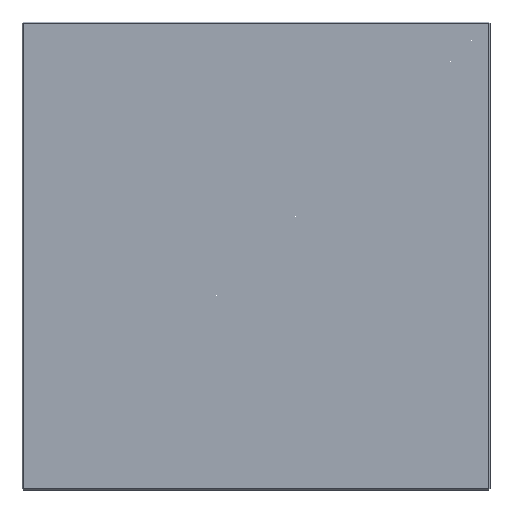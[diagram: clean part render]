
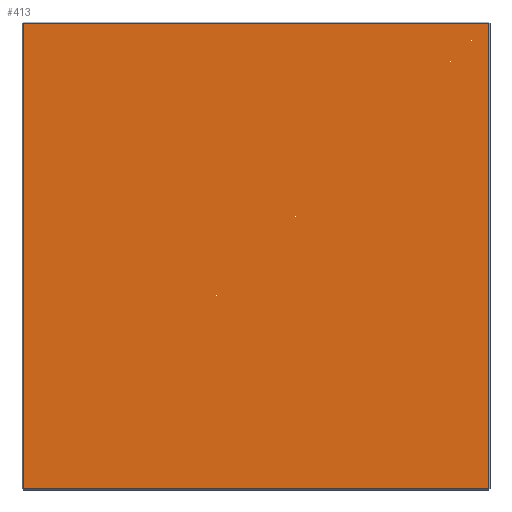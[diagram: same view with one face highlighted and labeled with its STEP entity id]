
A CAD part, front view. The second image highlights one B-rep face of the part: STEP entity #413.
In plain terms, the highlighted planar face has unit normal (0, -1, 0).
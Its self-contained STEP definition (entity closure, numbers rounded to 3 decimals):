
#5 = EDGE_CURVE ( 'NONE', #208, #531, #564, .T. ) ;
#31 = CARTESIAN_POINT ( 'NONE',  ( 222., 0., 222. ) ) ;
#55 = VERTEX_POINT ( 'NONE', #443 ) ;
#70 = EDGE_CURVE ( 'NONE', #229, #208, #214, .T. ) ;
#80 = ORIENTED_EDGE ( 'NONE', *, *, #123, .T. ) ;
#93 = CARTESIAN_POINT ( 'NONE',  ( 222., 0., -222. ) ) ;
#123 = EDGE_CURVE ( 'NONE', #55, #229, #458, .T. ) ;
#135 = CARTESIAN_POINT ( 'NONE',  ( 0., 0., -222. ) ) ;
#177 = CARTESIAN_POINT ( 'NONE',  ( -222., 0., 222. ) ) ;
#208 = VERTEX_POINT ( 'NONE', #31 ) ;
#214 = LINE ( 'NONE', #354, #592 ) ;
#225 = ORIENTED_EDGE ( 'NONE', *, *, #5, .T. ) ;
#229 = VERTEX_POINT ( 'NONE', #93 ) ;
#298 = DIRECTION ( 'NONE',  ( 0., 0., -1. ) ) ;
#305 = VECTOR ( 'NONE', #509, 1000. ) ;
#326 = ORIENTED_EDGE ( 'NONE', *, *, #369, .T. ) ;
#338 = CARTESIAN_POINT ( 'NONE',  ( -222., 0., 0. ) ) ;
#354 = CARTESIAN_POINT ( 'NONE',  ( 222., 0., 0. ) ) ;
#357 = CARTESIAN_POINT ( 'NONE',  ( 0., 0., 0. ) ) ;
#364 = CARTESIAN_POINT ( 'NONE',  ( 0., 0., 222. ) ) ;
#368 = DIRECTION ( 'NONE',  ( -1., 0., 0. ) ) ;
#369 = EDGE_CURVE ( 'NONE', #531, #55, #455, .T. ) ;
#381 = PLANE ( 'NONE',  #524 ) ;
#389 = DIRECTION ( 'NONE',  ( 0., 1., 0. ) ) ;
#392 = DIRECTION ( 'NONE',  ( 0., 0., 1. ) ) ;
#394 = ORIENTED_EDGE ( 'NONE', *, *, #70, .T. ) ;
#405 = DIRECTION ( 'NONE',  ( 0., 0., 1. ) ) ;
#413 = ADVANCED_FACE ( 'NONE', ( #437 ), #381, .F. ) ;
#430 = VECTOR ( 'NONE', #298, 1000. ) ;
#437 = FACE_OUTER_BOUND ( 'NONE', #555, .T. ) ;
#443 = CARTESIAN_POINT ( 'NONE',  ( -222., 0., -222. ) ) ;
#455 = LINE ( 'NONE', #338, #430 ) ;
#458 = LINE ( 'NONE', #135, #305 ) ;
#509 = DIRECTION ( 'NONE',  ( 1., 0., 0. ) ) ;
#519 = VECTOR ( 'NONE', #368, 1000. ) ;
#524 = AXIS2_PLACEMENT_3D ( 'NONE', #357, #389, #392 ) ;
#531 = VERTEX_POINT ( 'NONE', #177 ) ;
#555 = EDGE_LOOP ( 'NONE', ( #394, #225, #326, #80 ) ) ;
#564 = LINE ( 'NONE', #364, #519 ) ;
#592 = VECTOR ( 'NONE', #405, 1000. ) ;
